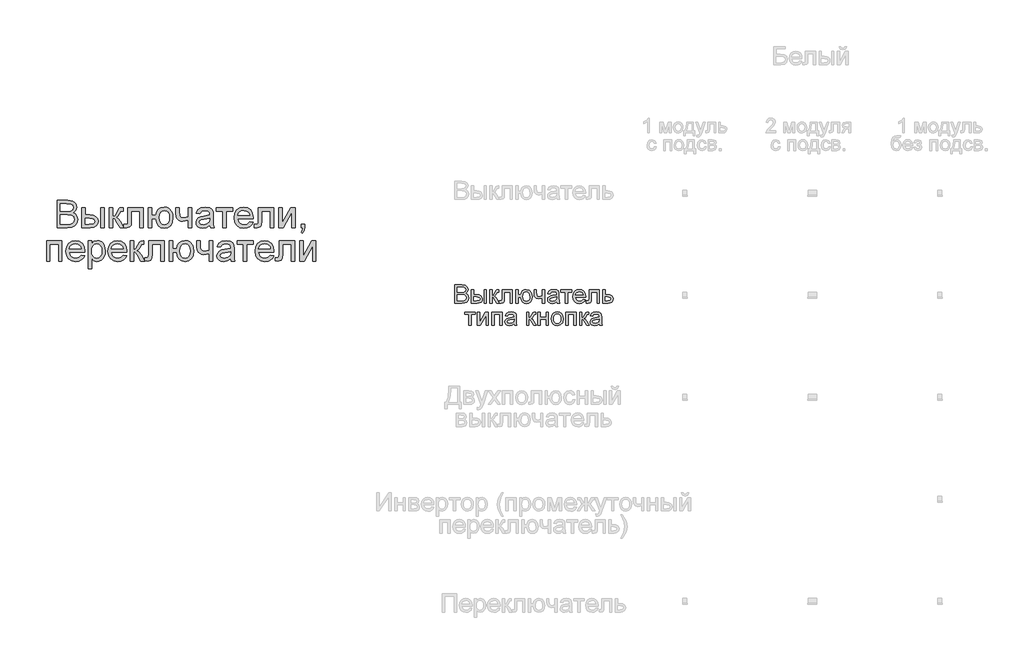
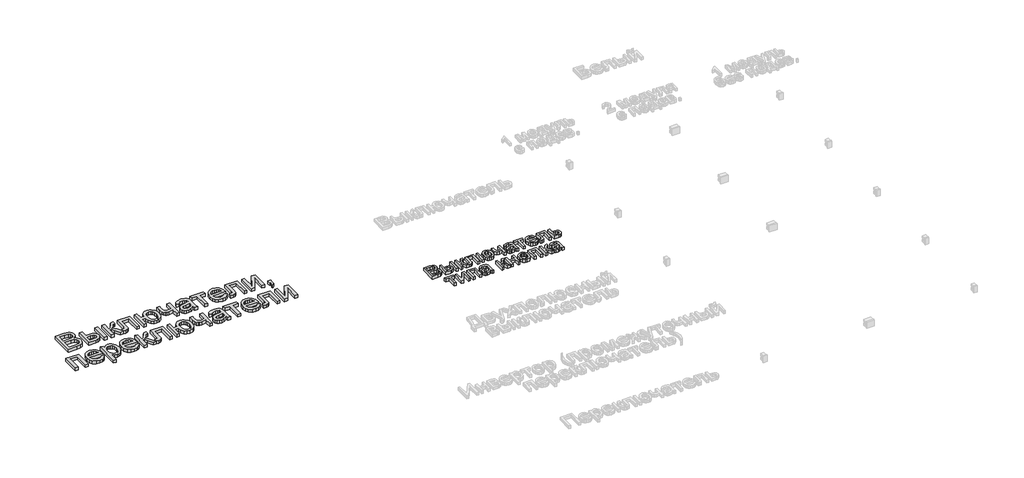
# One storey, part 4 of 47: 2 proxies.
"""IFC4 building model written with IfcOpenShell, lengths in millimetres."""

from ifc_helpers import new_model, si_unit, origin, origin_with_axes, place, context, project, spatial, polyline, outline, extrude, element, save

model = new_model("IFC4")

# Units and contexts
model_context = context("Model", 3, world=origin())
ifc_project = project(units=[si_unit("LENGTHUNIT", "METRE", prefix="MILLI")], contexts=[model_context])

# Site, building, storey
site = spatial("IfcSite", under=ifc_project)
building = spatial("IfcBuilding", under=site)
storey = spatial("IfcBuildingStorey", under=building, Name="Этаж 01", Elevation=0.0)

# Proxies
placement = place(None, origin())
element("IfcBuildingElementProxy", 1, Name="150 мм Arial", ObjectType="150 мм Arial", at=placement, inside=storey, context=model_context, shape_type="SweptSolid", body=[
    extrude(outline(polyline([(-3139.8008554, -28821.2772832), (-3139.8008554, -28670.592818), (-3082.3008996, -28670.592818), (-3054.1395328, -28675.025796), (-3044.6757685, -28680.649792), (-3037.5112666, -28688.6558239), (-3031.496396, -28707.9328405), (-3036.5547735, -28725.5359939), (-3051.8402704, -28738.8717163), (-3041.167094, -28744.4451285), (-3033.2806237, -28752.9248085), (-3028.4107858, -28763.7497362), (-3026.7875065, -28776.3588916), (-3031.2204845, -28796.6107954), (-3042.2017621, -28811.0317696), (-3058.590905, -28818.6837151), (-3082.7423579, -28821.2772832), (-3139.8008554, -28821.2772832)]), holes=[polyline([(-3120.9652972, -28731.808382), (-3086.5683307, -28731.808382), (-3066.4819738, -28730.1897012), (-3054.3970502, -28723.2183374), (-3050.3319542, -28710.9494728), (-3054.1211387, -28698.6622142), (-3064.9736576, -28691.3965448), (-3089.1802929, -28689.4283761), (-3120.9652972, -28689.4283761), (-3120.9652972, -28731.808382)]), polyline([(-3120.9652972, -28802.441725), (-3082.3376878, -28802.441725), (-3068.3581719, -28801.705961), (-3056.5307658, -28797.6040768), (-3048.6948793, -28789.2347614), (-3045.6230646, -28776.5428326), (-3049.2283082, -28761.9011292), (-3060.9085615, -28753.1639318), (-3084.1770977, -28750.6439401), (-3120.9652972, -28750.6439401), (-3120.9652972, -28802.441725)])]), origin_with_axes(), (0.0, 0.0, 1.0), 20.0),
    extrude(outline(polyline([(-2899.6474889, -28710.618379), (-2880.8119308, -28710.618379), (-2880.8119308, -28821.2772832), (-2899.6474889, -28821.2772832), (-2899.6474889, -28710.618379)])), origin_with_axes(), (0.0, 0.0, 1.0), 20.0),
    extrude(outline(polyline([(-3003.2430588, -28710.618379), (-2984.4075006, -28710.618379), (-2984.4075006, -28750.6439401), (-2961.1205703, -28750.6439401), (-2940.9928267, -28753.0029834), (-2926.0798103, -28760.0801133), (-2916.8505707, -28771.3051127), (-2913.7741576, -28786.1077644), (-2916.3539301, -28799.586041), (-2924.0932475, -28810.9581932), (-2937.4979477, -28818.6975107), (-2957.0738684, -28821.2772832), (-3003.2430588, -28821.2772832), (-3003.2430588, -28710.618379)]), holes=[polyline([(-2984.4075006, -28802.441725), (-2965.0569077, -28802.441725), (-2940.0777202, -28798.4869936), (-2934.4767168, -28793.4240176), (-2932.6097157, -28786.1445526), (-2938.1463397, -28774.5562698), (-2947.0260914, -28770.7486911), (-2962.5920983, -28769.4794983), (-2984.4075006, -28769.4794983), (-2984.4075006, -28802.441725)])]), origin_with_axes(), (0.0, 0.0, 1.0), 20.0),
    extrude(outline(polyline([(-2852.5585936, -28710.618379), (-2833.7230354, -28710.618379), (-2833.7230354, -28757.7072744), (-2821.104683, -28754.3227601), (-2810.7671989, -28734.6042851), (-2802.1771543, -28717.5897428), (-2794.5987852, -28712.0531188), (-2780.8216045, -28710.618379), (-2777.216361, -28710.618379), (-2777.216361, -28729.5643018), (-2782.2931325, -28729.4539372), (-2791.4901824, -28731.4405), (-2797.9649055, -28743.8381232), (-2805.5616687, -28757.2474219), (-2816.2118524, -28763.8141155), (-2804.329264, -28771.1441643), (-2792.6674048, -28786.586011), (-2772.5074714, -28821.2772832), (-2793.9182035, -28821.2772832), (-2813.6734667, -28787.321775), (-2823.6062805, -28772.9559831), (-2833.7230354, -28769.4794983), (-2833.7230354, -28821.2772832), (-2852.5585936, -28821.2772832), (-2852.5585936, -28710.618379)])), origin_with_axes(), (0.0, 0.0, 1.0), 20.0),
    extrude(outline(polyline([(-2751.3174685, -28710.618379), (-2666.5574568, -28710.618379), (-2666.5574568, -28821.1669186), (-2685.393015, -28821.1669186), (-2685.393015, -28729.4539372), (-2732.4819103, -28729.4539372), (-2732.4819103, -28782.2450035), (-2733.7511032, -28806.5987916), (-2740.722467, -28816.8810933), (-2757.2035804, -28821.2772832), (-2772.5074714, -28820.32079), (-2772.5074714, -28802.441725), (-2764.0829737, -28802.441725), (-2755.5665055, -28801.2828967), (-2752.1635971, -28797.6040768), (-2751.3174685, -28781.1781457), (-2751.3174685, -28710.618379)])), origin_with_axes(), (0.0, 0.0, 1.0), 20.0),
    extrude(outline(polyline([(-2638.3041196, -28710.618379), (-2619.4685614, -28710.618379), (-2619.4685614, -28752.9983849), (-2598.2785585, -28752.9983849), (-2593.3903265, -28733.7949447), (-2583.6552492, -28719.7418525), (-2569.6895289, -28711.1334138), (-2552.1093681, -28708.2639343), (-2537.3343075, -28709.9515929), (-2526.0449287, -28715.0145689), (-2510.2995794, -28733.6110037), (-2505.6504706, -28747.5169431), (-2504.1007677, -28765.5431609), (-2507.3059396, -28790.6695012), (-2516.9214553, -28808.8796599), (-2532.0276097, -28819.9437109), (-2551.7046979, -28823.6317279), (-2570.0941991, -28820.1736372), (-2584.4278014, -28809.7993649), (-2594.043317, -28793.3918279), (-2598.2785585, -28771.833943), (-2619.4685614, -28771.833943), (-2619.4685614, -28821.2772832), (-2638.3041196, -28821.2772832), (-2638.3041196, -28710.618379)]), holes=[polyline([(-2550.8953575, -28727.0994924), (-2562.9021061, -28729.5367106), (-2571.9198135, -28736.8483653), (-2577.5622036, -28748.5562098), (-2579.4430003, -28764.1819975), (-2577.5484081, -28782.3875578), (-2571.8646312, -28794.9921146), (-2563.0078722, -28802.345156), (-2551.5943333, -28804.7961698), (-2540.1486047, -28802.529097), (-2530.9745475, -28795.7278786), (-2524.9458813, -28783.8774798), (-2522.9363259, -28766.4628659), (-2524.6745683, -28749.24139), (-2529.8892956, -28736.9403358), (-2538.6172959, -28729.5597033), (-2550.8953575, -28727.0994924)])]), origin_with_axes(), (0.0, 0.0, 1.0), 20.0),
    extrude(outline(polyline([(-2487.6196543, -28710.618379), (-2468.7840962, -28710.618379), (-2468.7840962, -28731.8451702), (-2467.2573859, -28751.7475861), (-2459.9181401, -28762.5265285), (-2445.3500131, -28767.1250535), (-2419.340756, -28761.4228826), (-2419.340756, -28710.618379), (-2400.5051979, -28710.618379), (-2400.5051979, -28821.2772832), (-2419.340756, -28821.2772832), (-2419.340756, -28779.4858885), (-2450.3899964, -28785.9606116), (-2461.7805427, -28784.272953), (-2471.7455463, -28779.209977), (-2479.5124549, -28771.7005858), (-2484.3087164, -28762.6736813), (-2487.6196543, -28741.1525846), (-2487.6196543, -28710.618379)])), origin_with_axes(), (0.0, 0.0, 1.0), 20.0),
    extrude(outline(polyline([(-2301.6185176, -28807.1506146), (-2319.8838586, -28819.9161198), (-2340.0621861, -28823.6317279), (-2355.802937, -28821.3968448), (-2367.4142124, -28814.6921955), (-2374.5741158, -28804.5110612), (-2376.9607502, -28791.8467236), (-2373.3555066, -28776.9475028), (-2363.8825453, -28766.1317721), (-2350.6939757, -28759.9513546), (-2334.3968034, -28757.1186632), (-2301.7288822, -28750.6439401), (-2301.6185176, -28746.4500854), (-2302.9153016, -28738.0439818), (-2306.8056537, -28732.5441459), (-2315.5060629, -28728.4606558), (-2327.6277746, -28727.0994924), (-2346.684062, -28730.7231301), (-2355.7707473, -28743.5806058), (-2374.6063054, -28741.226161), (-2366.4577192, -28722.8320613), (-2350.0501823, -28712.0531188), (-2325.1997535, -28708.2639343), (-2302.3726757, -28711.6116604), (-2289.4784117, -28720.017764), (-2283.7026644, -28732.8016633), (-2282.7829594, -28749.2827767), (-2282.7829594, -28772.7168598), (-2281.8264662, -28805.4399633), (-2278.0740699, -28821.2772832), (-2296.909628, -28821.2772832), (-2301.6185176, -28807.1506146)]), holes=[polyline([(-2301.6185176, -28769.4794983), (-2332.0055704, -28775.2552456), (-2348.2107723, -28778.3086661), (-2355.5500181, -28783.2750731), (-2358.125192, -28790.5223484), (-2352.5149916, -28800.7126796), (-2336.0522723, -28804.7961698), (-2316.995985, -28800.2896154), (-2304.7087263, -28789.3819142), (-2301.7288822, -28774.8137872), (-2301.6185176, -28769.4794983)])]), origin_with_axes(), (0.0, 0.0, 1.0), 20.0),
    extrude(outline(polyline([(-2266.3018461, -28710.618379), (-2176.8329448, -28710.618379), (-2176.8329448, -28729.4539372), (-2212.1496164, -28729.4539372), (-2212.1496164, -28821.2772832), (-2230.9851745, -28821.2772832), (-2230.9851745, -28729.4539372), (-2266.3018461, -28729.4539372), (-2266.3018461, -28710.618379)])), origin_with_axes(), (0.0, 0.0, 1.0), 20.0),
    extrude(outline(polyline([(-2082.8758833, -28788.3150564), (-2064.4082071, -28790.6695012), (-2071.0622727, -28804.5846376), (-2081.6802668, -28814.9865011), (-2096.0230661, -28821.4704212), (-2113.8515472, -28823.6317279), (-2135.9520581, -28819.9023242), (-2152.9574033, -28808.714113), (-2163.8007251, -28790.7936614), (-2167.4151657, -28766.8675361), (-2163.7639369, -28742.136669), (-2152.8102505, -28723.6414017), (-2136.0348316, -28712.1083011), (-2114.918405, -28708.2639343), (-2094.4595676, -28712.0991041), (-2078.1118114, -28723.6046135), (-2067.3926498, -28742.0630926), (-2063.8195959, -28766.7571715), (-2063.9299605, -28771.833943), (-2148.5796076, -28771.833943), (-2145.3192534, -28785.9330205), (-2137.7454828, -28796.2980957), (-2126.8147891, -28802.6716513), (-2113.4836653, -28804.7961698), (-2095.0159891, -28800.8598324), (-2082.8758833, -28788.3150564)]), holes=[polyline([(-2148.5796076, -28752.9983849), (-2082.6551541, -28752.9983849), (-2085.2027369, -28743.0471769), (-2090.196735, -28735.9286603), (-2101.1780125, -28729.3067844), (-2114.9919814, -28727.0994924), (-2127.6885088, -28728.8607275), (-2138.1869412, -28734.1444326), (-2145.4848003, -28742.3803908), (-2148.5796076, -28752.9983849)])]), origin_with_axes(), (0.0, 0.0, 1.0), 20.0),
    extrude(outline(polyline([(-2035.5662587, -28710.618379), (-1950.806247, -28710.618379), (-1950.806247, -28821.1669186), (-1969.6418051, -28821.1669186), (-1969.6418051, -28729.4539372), (-2016.7307005, -28729.4539372), (-2016.7307005, -28782.2450035), (-2017.9998934, -28806.5987916), (-2024.9712572, -28816.8810933), (-2041.4523706, -28821.2772832), (-2056.7562616, -28820.32079), (-2056.7562616, -28802.441725), (-2048.3317639, -28802.441725), (-2039.8152957, -28801.2828967), (-2036.4123873, -28797.6040768), (-2035.5662587, -28781.1781457), (-2035.5662587, -28710.618379)])), origin_with_axes(), (0.0, 0.0, 1.0), 20.0),
    extrude(outline(polyline([(-1922.5529098, -28710.618379), (-1903.7173516, -28710.618379), (-1903.7173516, -28795.0105087), (-1857.4377966, -28710.618379), (-1833.0840085, -28710.618379), (-1833.0840085, -28821.2772832), (-1851.9195667, -28821.2772832), (-1851.9195667, -28737.4001883), (-1897.9048161, -28821.2772832), (-1922.5529098, -28821.2772832), (-1922.5529098, -28710.618379)])), origin_with_axes(), (0.0, 0.0, 1.0), 20.0),
    extrude(outline(polyline([(-1800.1217818, -28821.2772832), (-1800.1217818, -28802.441725), (-1781.2862236, -28802.441725), (-1781.2862236, -28821.2772832), (-1784.670738, -28840.5359056), (-1795.4128922, -28851.8850652), (-1800.1217818, -28844.8217309), (-1793.2056003, -28836.6915388), (-1790.7407909, -28821.2772832), (-1800.1217818, -28821.2772832)])), origin_with_axes(), (0.0, 0.0, 1.0), 20.0),
    extrude(outline(polyline([(-3197.4847522, -28893.5806058), (-3112.7247406, -28893.5806058), (-3112.7247406, -29004.2395099), (-3131.5602987, -29004.2395099), (-3131.5602987, -28912.416164), (-3178.6491941, -28912.416164), (-3178.6491941, -29004.2395099), (-3197.4847522, -29004.2395099), (-3197.4847522, -28893.5806058)])), origin_with_axes(), (0.0, 0.0, 1.0), 20.0),
    extrude(outline(polyline([(-3006.9954551, -28971.2772832), (-2988.527779, -28973.6317279), (-2995.1818446, -28987.5468644), (-3005.7998387, -28997.9487278), (-3020.1426379, -29004.432648), (-3037.9711191, -29006.5939547), (-3060.07163, -29002.864551), (-3077.0769752, -28991.6763398), (-3087.920297, -28973.7558881), (-3091.5347376, -28949.8297629), (-3087.8835088, -28925.0988957), (-3076.9298224, -28906.6036284), (-3060.1544034, -28895.0705279), (-3039.0379769, -28891.226161), (-3018.5791395, -28895.0613308), (-3002.2313833, -28906.5668402), (-2991.5122217, -28925.0253193), (-2987.9391678, -28949.7193983), (-2988.0495324, -28954.7961698), (-3072.6991795, -28954.7961698), (-3069.4388253, -28968.8952473), (-3061.8650547, -28979.2603225), (-3050.9343609, -28985.633878), (-3037.6032371, -28987.7583966), (-3019.135561, -28983.8220592), (-3006.9954551, -28971.2772832)]), holes=[polyline([(-3072.6991795, -28935.9606116), (-3006.7747259, -28935.9606116), (-3009.3223088, -28926.0094037), (-3014.3163068, -28918.8908871), (-3025.2975844, -28912.2690112), (-3039.1115533, -28910.0617192), (-3051.8080807, -28911.8229542), (-3062.3065131, -28917.1066594), (-3069.6043722, -28925.3426176), (-3072.6991795, -28935.9606116)])]), origin_with_axes(), (0.0, 0.0, 1.0), 20.0),
    extrude(outline(polyline([(-2969.1036096, -29046.6195158), (-2969.1036096, -28893.5806058), (-2950.2680515, -28893.5806058), (-2950.2680515, -28912.048282), (-2937.2450289, -28896.4316913), (-2919.6602695, -28891.226161), (-2906.9223554, -28893.0471769), (-2895.784728, -28898.5102245), (-2886.7164368, -28907.2842101), (-2880.1865314, -28919.0380399), (-2874.9258189, -28948.0639293), (-2876.4111424, -28964.1725621), (-2880.8671131, -28978.5797408), (-2888.1511766, -28990.5542997), (-2898.1207787, -28999.3650735), (-2909.7320541, -29004.7867344), (-2921.9411379, -29006.5939547), (-2938.3302807, -29001.7563065), (-2950.2680515, -28989.5242301), (-2950.2680515, -29046.6195158), (-2969.1036096, -29046.6195158)]), holes=[polyline([(-2950.2680515, -28949.7929747), (-2948.2309049, -28966.6787582), (-2942.1194653, -28978.4877703), (-2933.1017579, -28985.44074), (-2922.345808, -28987.7583966), (-2911.4151143, -28985.3579665), (-2902.1674806, -28978.1566765), (-2895.8629029, -28965.9154031), (-2893.761377, -28948.3950231), (-2895.8123191, -28931.60121), (-2901.9651455, -28919.6266511), (-2910.9690573, -28912.4529521), (-2921.5732559, -28910.0617192), (-2932.2188411, -28912.6047035), (-2941.5676423, -28920.2336563), (-2948.0929492, -28932.7094545), (-2950.2680515, -28949.7929747)])]), origin_with_axes(), (0.0, 0.0, 1.0), 20.0),
    extrude(outline(polyline([(-2776.2598678, -28971.2772832), (-2757.7921916, -28973.6317279), (-2764.4462572, -28987.5468644), (-2775.0642513, -28997.9487278), (-2789.4070506, -29004.432648), (-2807.2355318, -29006.5939547), (-2829.3360426, -29002.864551), (-2846.3413878, -28991.6763398), (-2857.1847097, -28973.7558881), (-2860.7991503, -28949.8297629), (-2857.1479215, -28925.0988957), (-2846.194235, -28906.6036284), (-2829.4188161, -28895.0705279), (-2808.3023895, -28891.226161), (-2787.8435521, -28895.0613308), (-2771.4957959, -28906.5668402), (-2760.7766343, -28925.0253193), (-2757.2035804, -28949.7193983), (-2757.313945, -28954.7961698), (-2841.9635921, -28954.7961698), (-2838.7032379, -28968.8952473), (-2831.1294673, -28979.2603225), (-2820.1987736, -28985.633878), (-2806.8676498, -28987.7583966), (-2788.3999736, -28983.8220592), (-2776.2598678, -28971.2772832)]), holes=[polyline([(-2841.9635921, -28935.9606116), (-2776.0391386, -28935.9606116), (-2778.5867214, -28926.0094037), (-2783.5807195, -28918.8908871), (-2794.561997, -28912.2690112), (-2808.3759659, -28910.0617192), (-2821.0724933, -28911.8229542), (-2831.5709257, -28917.1066594), (-2838.8687848, -28925.3426176), (-2841.9635921, -28935.9606116)])]), origin_with_axes(), (0.0, 0.0, 1.0), 20.0),
    extrude(outline(polyline([(-2637.1268972, -28893.5806058), (-2552.3668855, -28893.5806058), (-2552.3668855, -29004.1291453), (-2571.2024437, -29004.1291453), (-2571.2024437, -28912.416164), (-2618.291339, -28912.416164), (-2618.291339, -28965.2072303), (-2619.5605319, -28989.5610183), (-2626.5318957, -28999.8433201), (-2643.0130091, -29004.2395099), (-2658.3169001, -29003.2830168), (-2658.3169001, -28985.4039518), (-2649.8924024, -28985.4039518), (-2641.3759342, -28984.2451235), (-2637.9730258, -28980.5663036), (-2637.1268972, -28964.1403725), (-2637.1268972, -28893.5806058)])), origin_with_axes(), (0.0, 0.0, 1.0), 20.0),
    extrude(outline(polyline([(-2738.3680223, -28893.5806058), (-2719.5324641, -28893.5806058), (-2719.5324641, -28940.6695012), (-2706.9141117, -28937.2849868), (-2696.5766276, -28917.5665119), (-2687.986583, -28900.5519696), (-2680.4082139, -28895.0153456), (-2666.6310332, -28893.5806058), (-2663.0257896, -28893.5806058), (-2663.0257896, -28912.5265285), (-2668.1025612, -28912.416164), (-2677.2996111, -28914.4027267), (-2683.7743342, -28926.80035), (-2691.3710974, -28940.2096487), (-2702.0212811, -28946.7763423), (-2690.1386927, -28954.1063911), (-2678.4768334, -28969.5482378), (-2658.3169001, -29004.2395099), (-2679.7276322, -29004.2395099), (-2699.4828954, -28970.2840018), (-2709.4157092, -28955.9182099), (-2719.5324641, -28952.441725), (-2719.5324641, -29004.2395099), (-2738.3680223, -29004.2395099), (-2738.3680223, -28893.5806058)])), origin_with_axes(), (0.0, 0.0, 1.0), 20.0),
    extrude(outline(polyline([(-2524.1135483, -28893.5806058), (-2505.2779901, -28893.5806058), (-2505.2779901, -28935.9606116), (-2484.0879872, -28935.9606116), (-2479.1997552, -28916.7571715), (-2469.4646779, -28902.7040793), (-2455.4989576, -28894.0956406), (-2437.9187968, -28891.226161), (-2423.1437362, -28892.9138197), (-2411.8543574, -28897.9767956), (-2396.109008, -28916.5732305), (-2391.4598993, -28930.4791699), (-2389.9101964, -28948.5053877), (-2393.1153683, -28973.6317279), (-2402.730884, -28991.8418867), (-2417.8370384, -29002.9059377), (-2437.5141266, -29006.5939547), (-2455.9036278, -29003.135864), (-2470.2372301, -28992.7615917), (-2479.8527457, -28976.3540547), (-2484.0879872, -28954.7961698), (-2505.2779901, -28954.7961698), (-2505.2779901, -29004.2395099), (-2524.1135483, -29004.2395099), (-2524.1135483, -28893.5806058)]), holes=[polyline([(-2436.7047862, -28910.0617192), (-2448.7115348, -28912.4989374), (-2457.7292422, -28919.8105921), (-2463.3716323, -28931.5184365), (-2465.252429, -28947.1442243), (-2463.3578368, -28965.3497845), (-2457.6740599, -28977.9543414), (-2448.8173009, -28985.3073828), (-2437.403762, -28987.7583966), (-2425.9580334, -28985.4913238), (-2416.7839762, -28978.6901054), (-2410.75531, -28966.8397066), (-2408.7457546, -28949.4250927), (-2410.483997, -28932.2036168), (-2415.6987243, -28919.9025626), (-2424.4267246, -28912.52193), (-2436.7047862, -28910.0617192)])]), origin_with_axes(), (0.0, 0.0, 1.0), 20.0),
    extrude(outline(polyline([(-2373.429083, -28893.5806058), (-2354.5935249, -28893.5806058), (-2354.5935249, -28914.8073969), (-2353.0668146, -28934.7098129), (-2345.7275688, -28945.4887553), (-2331.1594418, -28950.0872803), (-2305.1501847, -28944.3851093), (-2305.1501847, -28893.5806058), (-2286.3146266, -28893.5806058), (-2286.3146266, -29004.2395099), (-2305.1501847, -29004.2395099), (-2305.1501847, -28962.4481153), (-2336.1994251, -28968.9228384), (-2347.5899714, -28967.2351798), (-2357.554975, -28962.1722038), (-2365.3218836, -28954.6628126), (-2370.1181451, -28945.6359081), (-2373.429083, -28924.1148114), (-2373.429083, -28893.5806058)])), origin_with_axes(), (0.0, 0.0, 1.0), 20.0),
    extrude(outline(polyline([(-2187.4279463, -28990.1128413), (-2205.6932873, -29002.8783466), (-2225.8716148, -29006.5939547), (-2241.6123656, -29004.3590716), (-2253.2236411, -28997.6544222), (-2260.3835445, -28987.473288), (-2262.7701789, -28974.8089503), (-2259.1649353, -28959.9097295), (-2249.691974, -28949.0939989), (-2236.5034044, -28942.9135814), (-2220.2062321, -28940.08089), (-2187.5383109, -28933.6061669), (-2187.4279463, -28929.4123121), (-2188.7247303, -28921.0062085), (-2192.6150824, -28915.5063727), (-2201.3154916, -28911.4228826), (-2213.4372033, -28910.0617192), (-2232.4934907, -28913.6853568), (-2241.580176, -28926.5428326), (-2260.4157341, -28924.1883878), (-2252.2671479, -28905.794288), (-2235.859611, -28895.0153456), (-2211.0091822, -28891.226161), (-2188.1821044, -28894.5738872), (-2175.2878404, -28902.9799908), (-2169.5120931, -28915.7638901), (-2168.5923881, -28932.2450035), (-2168.5923881, -28955.6790866), (-2167.6358949, -28988.4021901), (-2163.8834986, -29004.2395099), (-2182.7190567, -29004.2395099), (-2187.4279463, -28990.1128413)]), holes=[polyline([(-2187.4279463, -28952.441725), (-2217.8149991, -28958.2174723), (-2234.020201, -28961.2708929), (-2241.3594468, -28966.2372998), (-2243.9346207, -28973.4845751), (-2238.3244203, -28983.6749064), (-2221.861701, -28987.7583966), (-2202.8054137, -28983.2518421), (-2190.518155, -28972.344141), (-2187.5383109, -28957.776014), (-2187.4279463, -28952.441725)])]), origin_with_axes(), (0.0, 0.0, 1.0), 20.0),
    extrude(outline(polyline([(-2152.1112747, -28893.5806058), (-2062.6423735, -28893.5806058), (-2062.6423735, -28912.416164), (-2097.9590451, -28912.416164), (-2097.9590451, -29004.2395099), (-2116.7946032, -29004.2395099), (-2116.7946032, -28912.416164), (-2152.1112747, -28912.416164), (-2152.1112747, -28893.5806058)])), origin_with_axes(), (0.0, 0.0, 1.0), 20.0),
    extrude(outline(polyline([(-1968.685312, -28971.2772832), (-1950.2176358, -28973.6317279), (-1956.8717014, -28987.5468644), (-1967.4896955, -28997.9487278), (-1981.8324948, -29004.432648), (-1999.6609759, -29006.5939547), (-2021.7614868, -29002.864551), (-2038.766832, -28991.6763398), (-2049.6101538, -28973.7558881), (-2053.2245944, -28949.8297629), (-2049.5733656, -28925.0988957), (-2038.6196792, -28906.6036284), (-2021.8442603, -28895.0705279), (-2000.7278337, -28891.226161), (-1980.2689963, -28895.0613308), (-1963.9212401, -28906.5668402), (-1953.2020785, -28925.0253193), (-1949.6290246, -28949.7193983), (-1949.7393892, -28954.7961698), (-2034.3890363, -28954.7961698), (-2031.1286821, -28968.8952473), (-2023.5549115, -28979.2603225), (-2012.6242178, -28985.633878), (-1999.293094, -28987.7583966), (-1980.8254178, -28983.8220592), (-1968.685312, -28971.2772832)]), holes=[polyline([(-2034.3890363, -28935.9606116), (-1968.4645828, -28935.9606116), (-1971.0121656, -28926.0094037), (-1976.0061637, -28918.8908871), (-1986.9874412, -28912.2690112), (-2000.8014101, -28910.0617192), (-2013.4979375, -28911.8229542), (-2023.9963699, -28917.1066594), (-2031.294229, -28925.3426176), (-2034.3890363, -28935.9606116)])]), origin_with_axes(), (0.0, 0.0, 1.0), 20.0),
    extrude(outline(polyline([(-1921.3756874, -28893.5806058), (-1836.6156757, -28893.5806058), (-1836.6156757, -29004.1291453), (-1855.4512338, -29004.1291453), (-1855.4512338, -28912.416164), (-1902.5401292, -28912.416164), (-1902.5401292, -28965.2072303), (-1903.8093221, -28989.5610183), (-1910.7806859, -28999.8433201), (-1927.2617993, -29004.2395099), (-1942.5656903, -29003.2830168), (-1942.5656903, -28985.4039518), (-1934.1411926, -28985.4039518), (-1925.6247244, -28984.2451235), (-1922.221816, -28980.5663036), (-1921.3756874, -28964.1403725), (-1921.3756874, -28893.5806058)])), origin_with_axes(), (0.0, 0.0, 1.0), 20.0),
    extrude(outline(polyline([(-1808.3623385, -28893.5806058), (-1789.5267803, -28893.5806058), (-1789.5267803, -28977.9727355), (-1743.2472253, -28893.5806058), (-1718.8934372, -28893.5806058), (-1718.8934372, -29004.2395099), (-1737.7289954, -29004.2395099), (-1737.7289954, -28920.362415), (-1783.7142448, -29004.2395099), (-1808.3623385, -29004.2395099), (-1808.3623385, -28893.5806058)])), origin_with_axes(), (0.0, 0.0, 1.0), 20.0),
])
element("IfcBuildingElementProxy", 2, Name="100 мм Arial", ObjectType="100 мм Arial", at=placement, inside=storey, context=model_context, shape_type="SweptSolid", body=[
    extrude(outline(polyline([(-956.6178439, -29235.4748677), (-956.6178439, -29135.0185576), (-918.28454, -29135.0185576), (-899.5102955, -29137.9738763), (-888.4247847, -29147.0605615), (-884.414871, -29159.9119059), (-887.7871226, -29171.6473416), (-897.9774539, -29180.5378231), (-885.6043561, -29189.9065513), (-881.2756113, -29205.5292733), (-884.23093, -29219.0305425), (-891.5517817, -29228.6445253), (-902.477877, -29233.7458223), (-918.5788456, -29235.4748677), (-956.6178439, -29235.4748677)]), holes=[polyline([(-944.0608051, -29175.8289336), (-921.1294941, -29175.8289336), (-907.7385895, -29174.749813), (-899.6819738, -29170.1022372), (-896.9719098, -29161.9229942), (-899.4980328, -29153.7314884), (-906.7330454, -29148.8877088), (-922.8708022, -29147.5755963), (-944.0608051, -29147.5755963), (-944.0608051, -29175.8289336)]), polyline([(-944.0608051, -29222.917829), (-918.3090655, -29222.917829), (-908.9893883, -29222.4273196), (-901.1044508, -29219.6927301), (-895.8805265, -29214.1131865), (-893.8326501, -29205.6519006), (-896.2361458, -29195.890765), (-904.0229813, -29190.0659668), (-919.5353388, -29188.3859723), (-944.0608051, -29188.3859723), (-944.0608051, -29222.917829)])]), origin_with_axes(), (0.0, 0.0, 1.0), 20.0),
    extrude(outline(polyline([(-796.5155996, -29161.702265), (-783.9585608, -29161.702265), (-783.9585608, -29235.4748677), (-796.5155996, -29235.4748677), (-796.5155996, -29161.702265)])), origin_with_axes(), (0.0, 0.0, 1.0), 20.0),
    extrude(outline(polyline([(-865.5793128, -29161.702265), (-853.0222741, -29161.702265), (-853.0222741, -29188.3859723), (-837.4976539, -29188.3859723), (-824.0791581, -29189.9586679), (-814.1371472, -29194.6767545), (-807.9843208, -29202.1600874), (-805.9333787, -29212.0285219), (-807.653227, -29221.0140396), (-812.812772, -29228.5954744), (-821.7492388, -29233.7550194), (-834.7998526, -29235.4748677), (-865.5793128, -29235.4748677), (-865.5793128, -29161.702265)]), holes=[polyline([(-853.0222741, -29222.917829), (-840.1218788, -29222.917829), (-823.4690871, -29220.2813413), (-818.4904175, -29212.0530474), (-822.1815001, -29204.3275255), (-838.4786725, -29200.9430111), (-853.0222741, -29200.9430111), (-853.0222741, -29222.917829)])]), origin_with_axes(), (0.0, 0.0, 1.0), 20.0),
    extrude(outline(polyline([(-697.6289193, -29161.702265), (-641.1222448, -29161.702265), (-641.1222448, -29235.4012913), (-653.6792836, -29235.4012913), (-653.6792836, -29174.2593037), (-685.0718805, -29174.2593037), (-685.0718805, -29209.4533479), (-685.9180091, -29225.6892066), (-690.565585, -29232.5440745), (-701.5529939, -29235.4748677), (-711.7555879, -29234.8372056), (-711.7555879, -29222.917829), (-706.1392561, -29222.917829), (-700.4616107, -29222.1452768), (-698.193005, -29219.6927301), (-697.6289193, -29208.7421094), (-697.6289193, -29161.702265)])), origin_with_axes(), (0.0, 0.0, 1.0), 20.0),
    extrude(outline(polyline([(-765.1230027, -29161.702265), (-752.5659639, -29161.702265), (-752.5659639, -29193.0948619), (-744.153729, -29190.838519), (-737.2620729, -29177.692869), (-731.5353765, -29166.3498408), (-726.4831305, -29162.6587581), (-717.2983433, -29161.702265), (-714.8948476, -29161.702265), (-714.8948476, -29174.3328801), (-718.279362, -29174.2593037), (-724.4107286, -29175.5836789), (-728.7272106, -29183.8487611), (-733.7917194, -29192.7882935), (-740.8918419, -29197.1660893), (-732.9701163, -29202.0527885), (-725.1955435, -29212.347353), (-711.7555879, -29235.4748677), (-726.0294093, -29235.4748677), (-739.1995848, -29212.8378623), (-745.8214607, -29203.2606677), (-752.5659639, -29200.9430111), (-752.5659639, -29235.4748677), (-765.1230027, -29235.4748677), (-765.1230027, -29161.702265)])), origin_with_axes(), (0.0, 0.0, 1.0), 20.0),
    extrude(outline(polyline([(-622.2866867, -29161.702265), (-609.7296479, -29161.702265), (-609.7296479, -29189.9556022), (-595.6029793, -29189.9556022), (-592.344158, -29177.1533088), (-585.8541064, -29167.7845806), (-576.5436263, -29162.0456215), (-564.823519, -29160.1326351), (-547.4472261, -29164.6330582), (-536.9503265, -29177.0306814), (-532.8177855, -29198.3187862), (-534.9545667, -29215.0696797), (-541.3649105, -29227.2097856), (-551.4356801, -29234.5858196), (-564.5537389, -29237.0444976), (-576.8134064, -29234.7391037), (-586.3691412, -29227.8229222), (-592.779485, -29216.8845642), (-595.6029793, -29202.512641), (-609.7296479, -29202.512641), (-609.7296479, -29235.4748677), (-622.2866867, -29235.4748677), (-622.2866867, -29161.702265)]), holes=[polyline([(-564.0141787, -29172.6896739), (-572.0186777, -29174.314486), (-578.0304827, -29179.1889225), (-583.0459405, -29197.411344), (-581.782879, -29209.5483841), (-577.9936945, -29217.951422), (-572.0891885, -29222.8534496), (-564.4801625, -29224.4874588), (-556.8496768, -29222.9760769), (-550.7336386, -29218.4419313), (-546.7145278, -29210.5416655), (-545.3748242, -29198.9319229), (-550.0101374, -29179.2502361), (-555.8288043, -29174.3298144), (-564.0141787, -29172.6896739)])]), origin_with_axes(), (0.0, 0.0, 1.0), 20.0),
    extrude(outline(polyline([(-521.8303765, -29161.702265), (-509.2733378, -29161.702265), (-509.2733378, -29175.853459), (-508.2555309, -29189.1217363), (-503.3627004, -29196.307698), (-493.6506157, -29199.3733813), (-476.311111, -29195.571934), (-476.311111, -29161.702265), (-463.7540722, -29161.702265), (-463.7540722, -29235.4748677), (-476.311111, -29235.4748677), (-476.311111, -29207.613938), (-497.0106046, -29211.93042), (-511.2476378, -29207.429997), (-519.6230846, -29196.4057998), (-521.8303765, -29182.058402), (-521.8303765, -29161.702265)])), origin_with_axes(), (0.0, 0.0, 1.0), 20.0),
    extrude(outline(polyline([(-397.8296187, -29226.0570886), (-410.0065127, -29234.5674255), (-423.458731, -29237.0444976), (-433.9525649, -29235.5545755), (-441.6934153, -29231.0848092), (-446.4666841, -29224.2973864), (-448.0577738, -29215.8544946), (-445.6542781, -29205.9216808), (-439.3389705, -29198.7111937), (-430.5465908, -29194.5909153), (-419.6818092, -29192.7024544), (-397.9031951, -29188.3859723), (-397.8296187, -29185.5900692), (-401.2877095, -29176.3194429), (-415.1691234, -29172.6896739), (-427.873315, -29175.1054323), (-433.9311052, -29183.6770828), (-446.4881439, -29182.107453), (-441.0557531, -29169.8447198), (-430.1173951, -29162.6587581), (-413.5504426, -29160.1326351), (-398.3323908, -29162.3644525), (-389.7362148, -29167.9685216), (-385.8857166, -29176.4911212), (-385.2725799, -29187.4785301), (-385.2725799, -29203.1012521), (-384.6349178, -29224.9166545), (-382.1333202, -29235.4748677), (-394.690359, -29235.4748677), (-397.8296187, -29226.0570886)]), holes=[polyline([(-397.8296187, -29200.9430111), (-418.0876539, -29204.7935093), (-428.8911218, -29206.829123), (-433.7839524, -29210.140061), (-435.500735, -29214.9715779), (-431.7606014, -29221.765132), (-420.7854552, -29224.4874588), (-408.0812636, -29221.4830892), (-399.8897579, -29214.2112884), (-397.9031951, -29204.4992037), (-397.8296187, -29200.9430111)])]), origin_with_axes(), (0.0, 0.0, 1.0), 20.0),
    extrude(outline(polyline([(-374.285171, -29161.702265), (-314.6392369, -29161.702265), (-314.6392369, -29174.2593037), (-338.1836846, -29174.2593037), (-338.1836846, -29235.4748677), (-350.7407233, -29235.4748677), (-350.7407233, -29174.2593037), (-374.285171, -29174.2593037), (-374.285171, -29161.702265)])), origin_with_axes(), (0.0, 0.0, 1.0), 20.0),
    extrude(outline(polyline([(-252.0011958, -29213.5000499), (-239.6894117, -29215.0696797), (-244.1254554, -29224.3464374), (-251.2041182, -29231.281013), (-260.7659843, -29235.6036264), (-272.6516385, -29237.0444976), (-287.3853124, -29234.5582284), (-298.7222092, -29227.099421), (-305.9510904, -29215.1524532), (-308.3607175, -29199.201703), (-305.9265649, -29182.7144582), (-298.6241073, -29170.38428), (-287.4404947, -29162.6955463), (-273.362877, -29160.1326351), (-259.723652, -29162.689415), (-248.8251479, -29170.3597546), (-241.6790402, -29182.6654073), (-239.2970042, -29199.1281266), (-239.3705806, -29202.512641), (-295.8036787, -29202.512641), (-293.6301093, -29211.9120259), (-288.5809289, -29218.8220761), (-281.2937997, -29223.0711131), (-272.4063838, -29224.4874588), (-260.0945997, -29221.8632339), (-252.0011958, -29213.5000499)]), holes=[polyline([(-295.8036787, -29189.9556022), (-251.854043, -29189.9556022), (-256.8817636, -29178.5757858), (-264.2026153, -29174.1612019), (-273.4119279, -29172.6896739), (-288.8752345, -29177.3863007), (-293.7404739, -29182.8769395), (-295.8036787, -29189.9556022)])]), origin_with_axes(), (0.0, 0.0, 1.0), 20.0),
    extrude(outline(polyline([(-220.4614461, -29161.702265), (-163.9547716, -29161.702265), (-163.9547716, -29235.4012913), (-176.5118104, -29235.4012913), (-176.5118104, -29174.2593037), (-207.9044073, -29174.2593037), (-207.9044073, -29209.4533479), (-208.7505359, -29225.6892066), (-213.3981118, -29232.5440745), (-224.3855207, -29235.4748677), (-234.5881147, -29234.8372056), (-234.5881147, -29222.917829), (-228.9717829, -29222.917829), (-223.2941375, -29222.1452768), (-221.0255318, -29219.6927301), (-220.4614461, -29208.7421094), (-220.4614461, -29161.702265)])), origin_with_axes(), (0.0, 0.0, 1.0), 20.0),
    extrude(outline(polyline([(-145.1192135, -29161.702265), (-132.5621747, -29161.702265), (-132.5621747, -29188.3859723), (-118.0921496, -29188.3859723), (-105.5473735, -29189.9586679), (-96.2644845, -29194.6767545), (-90.5255254, -29202.1600874), (-88.612539, -29212.0285219), (-90.2404169, -29221.0140396), (-95.1240503, -29228.5954744), (-103.5884019, -29233.7550194), (-115.958434, -29235.4748677), (-145.1192135, -29235.4748677), (-145.1192135, -29161.702265)]), holes=[polyline([(-132.5621747, -29222.917829), (-120.8390018, -29222.917829), (-105.6945263, -29220.2813413), (-101.1695778, -29212.0530474), (-104.5173039, -29204.3275255), (-119.3429484, -29200.9430111), (-132.5621747, -29200.9430111), (-132.5621747, -29222.917829)])]), origin_with_axes(), (0.0, 0.0, 1.0), 20.0),
    extrude(outline(polyline([(-903.2504291, -29283.6770828), (-843.604495, -29283.6770828), (-843.604495, -29296.2341216), (-867.1489427, -29296.2341216), (-867.1489427, -29357.4496856), (-879.7059815, -29357.4496856), (-879.7059815, -29296.2341216), (-903.2504291, -29296.2341216), (-903.2504291, -29283.6770828)])), origin_with_axes(), (0.0, 0.0, 1.0), 20.0),
    extrude(outline(polyline([(-832.6170861, -29283.6770828), (-820.0600473, -29283.6770828), (-820.0600473, -29339.9385026), (-789.2070106, -29283.6770828), (-772.9711519, -29283.6770828), (-772.9711519, -29357.4496856), (-785.5281907, -29357.4496856), (-785.5281907, -29301.5316223), (-816.1850236, -29357.4496856), (-832.6170861, -29357.4496856), (-832.6170861, -29283.6770828)])), origin_with_axes(), (0.0, 0.0, 1.0), 20.0),
    extrude(outline(polyline([(-754.1355938, -29283.6770828), (-697.6289193, -29283.6770828), (-697.6289193, -29357.4496856), (-710.1859581, -29357.4496856), (-710.1859581, -29296.2341216), (-741.578555, -29296.2341216), (-741.578555, -29357.4496856), (-754.1355938, -29357.4496856), (-754.1355938, -29283.6770828)])), origin_with_axes(), (0.0, 0.0, 1.0), 20.0),
    extrude(outline(polyline([(-631.7044658, -29348.0319065), (-643.8813598, -29356.5422433), (-657.3335781, -29359.0193154), (-667.827412, -29357.5293933), (-675.5682623, -29353.0596271), (-680.3415312, -29346.2722043), (-681.9326208, -29337.8293125), (-679.5291251, -29327.8964986), (-673.2138176, -29320.6860115), (-664.4214379, -29316.5657332), (-653.5566563, -29314.6772723), (-631.7780422, -29310.3607902), (-631.7044658, -29307.564887), (-635.1625565, -29298.2942607), (-649.0439705, -29294.6644917), (-661.748162, -29297.0802502), (-667.8059522, -29305.6519006), (-680.362991, -29304.0822708), (-674.9306002, -29291.8195376), (-663.9922422, -29284.633576), (-647.4252897, -29282.107453), (-632.2072378, -29284.3392704), (-623.6110619, -29289.9433395), (-619.7605637, -29298.465939), (-619.147427, -29309.4533479), (-619.147427, -29325.07607), (-618.5097649, -29346.8914723), (-616.0081673, -29357.4496856), (-628.5652061, -29357.4496856), (-631.7044658, -29348.0319065)]), holes=[polyline([(-631.7044658, -29322.917829), (-651.962501, -29326.7683272), (-662.7659689, -29328.8039409), (-667.6587994, -29332.1148788), (-669.3755821, -29336.9463957), (-665.6354485, -29343.7399499), (-654.6603023, -29346.4622766), (-641.9561107, -29343.457907), (-633.7646049, -29336.1861062), (-631.7780422, -29326.4740216), (-631.7044658, -29322.917829)])]), origin_with_axes(), (0.0, 0.0, 1.0), 20.0),
    extrude(outline(polyline([(-562.6407525, -29283.6770828), (-550.0837138, -29283.6770828), (-550.0837138, -29315.0696797), (-541.6714788, -29312.8133368), (-534.7798228, -29299.6676869), (-529.0531264, -29288.3246587), (-524.0008803, -29284.633576), (-514.8160932, -29283.6770828), (-512.4125975, -29283.6770828), (-512.4125975, -29296.307698), (-515.7971118, -29296.2341216), (-521.9284784, -29297.5584968), (-526.2449605, -29305.8235789), (-531.3094693, -29314.7631114), (-538.4095918, -29319.1409071), (-530.4878662, -29324.0276063), (-522.7132933, -29334.3221708), (-509.2733378, -29357.4496856), (-523.5471592, -29357.4496856), (-536.7173346, -29334.8126801), (-543.3392105, -29325.2354855), (-550.0837138, -29322.917829), (-550.0837138, -29357.4496856), (-562.6407525, -29357.4496856), (-562.6407525, -29283.6770828)])), origin_with_axes(), (0.0, 0.0, 1.0), 20.0),
    extrude(outline(polyline([(-501.4251885, -29283.6770828), (-488.8681498, -29283.6770828), (-488.8681498, -29311.93042), (-455.905923, -29311.93042), (-455.905923, -29283.6770828), (-443.3488842, -29283.6770828), (-443.3488842, -29357.4496856), (-455.905923, -29357.4496856), (-455.905923, -29324.4874588), (-488.8681498, -29324.4874588), (-488.8681498, -29357.4496856), (-501.4251885, -29357.4496856), (-501.4251885, -29283.6770828)])), origin_with_axes(), (0.0, 0.0, 1.0), 20.0),
    extrude(outline(polyline([(-427.6525858, -29320.5633842), (-424.9363904, -29302.7762897), (-416.7878042, -29290.2744332), (-406.7201003, -29284.149198), (-394.6658335, -29282.107453), (-381.4741983, -29284.5937221), (-370.9374449, -29292.0525296), (-364.0304604, -29303.8952641), (-361.7281322, -29319.5333146), (-365.7993597, -29341.8760144), (-377.6574226, -29354.5188923), (-394.6658335, -29359.0193154), (-408.0168843, -29356.5422433), (-418.541375, -29349.111027), (-425.3747831, -29337.0199721), (-427.6525858, -29320.5633842)]), holes=[polyline([(-415.095547, -29320.5388587), (-413.6424131, -29331.9033467), (-409.2830115, -29339.9998163), (-402.7224492, -29344.8466615), (-394.6658335, -29346.4622766), (-386.646006, -29344.8374645), (-380.0977065, -29339.9630281), (-375.7383049, -29331.7592596), (-374.285171, -29320.1464513), (-375.7475019, -29309.1130571), (-380.1344947, -29301.1269521), (-386.6919913, -29296.2801068), (-394.6658335, -29294.6644917), (-402.7224492, -29296.2739755), (-409.2830115, -29301.1024266), (-413.6424131, -29309.1805021), (-415.095547, -29320.5388587)])]), origin_with_axes(), (0.0, 0.0, 1.0), 20.0),
    extrude(outline(polyline([(-347.6014636, -29283.6770828), (-291.0947892, -29283.6770828), (-291.0947892, -29357.4496856), (-303.6518279, -29357.4496856), (-303.6518279, -29296.2341216), (-335.0444249, -29296.2341216), (-335.0444249, -29357.4496856), (-347.6014636, -29357.4496856), (-347.6014636, -29283.6770828)])), origin_with_axes(), (0.0, 0.0, 1.0), 20.0),
    extrude(outline(polyline([(-272.259231, -29283.6770828), (-259.7021922, -29283.6770828), (-259.7021922, -29315.0696797), (-251.2899573, -29312.8133368), (-244.3983012, -29299.6676869), (-238.6716049, -29288.3246587), (-233.6193588, -29284.633576), (-224.4345716, -29283.6770828), (-222.0310759, -29283.6770828), (-222.0310759, -29296.307698), (-225.4155903, -29296.2341216), (-231.5469569, -29297.5584968), (-235.863439, -29305.8235789), (-240.9279478, -29314.7631114), (-248.0280703, -29319.1409071), (-240.1063446, -29324.0276063), (-232.3317718, -29334.3221708), (-218.8918162, -29357.4496856), (-233.1656377, -29357.4496856), (-246.3358131, -29334.8126801), (-252.957689, -29325.2354855), (-259.7021922, -29322.917829), (-259.7021922, -29357.4496856), (-272.259231, -29357.4496856), (-272.259231, -29283.6770828)])), origin_with_axes(), (0.0, 0.0, 1.0), 20.0),
    extrude(outline(polyline([(-163.9547716, -29348.0319065), (-176.1316657, -29356.5422433), (-189.583884, -29359.0193154), (-200.0777179, -29357.5293933), (-207.8185682, -29353.0596271), (-212.5918371, -29346.2722043), (-214.1829267, -29337.8293125), (-211.779431, -29327.8964986), (-205.4641234, -29320.6860115), (-196.6717437, -29316.5657332), (-185.8069621, -29314.6772723), (-164.028348, -29310.3607902), (-163.9547716, -29307.564887), (-167.4128624, -29298.2942607), (-181.2942763, -29294.6644917), (-193.9984679, -29297.0802502), (-200.0562581, -29305.6519006), (-212.6132969, -29304.0822708), (-207.1809061, -29291.8195376), (-196.2425481, -29284.633576), (-179.6755956, -29282.107453), (-164.4575437, -29284.3392704), (-155.8613677, -29289.9433395), (-152.0108695, -29298.465939), (-151.3977329, -29309.4533479), (-151.3977329, -29325.07607), (-150.7600707, -29346.8914723), (-148.2584732, -29357.4496856), (-160.8155119, -29357.4496856), (-163.9547716, -29348.0319065)]), holes=[polyline([(-163.9547716, -29322.917829), (-184.2128068, -29326.7683272), (-195.0162748, -29328.8039409), (-199.9091053, -29332.1148788), (-201.6258879, -29336.9463957), (-197.8857543, -29343.7399499), (-186.9106081, -29346.4622766), (-174.2064166, -29343.457907), (-166.0149108, -29336.1861062), (-164.028348, -29326.4740216), (-163.9547716, -29322.917829)])]), origin_with_axes(), (0.0, 0.0, 1.0), 20.0),
])

save(model, "model.ifc")
